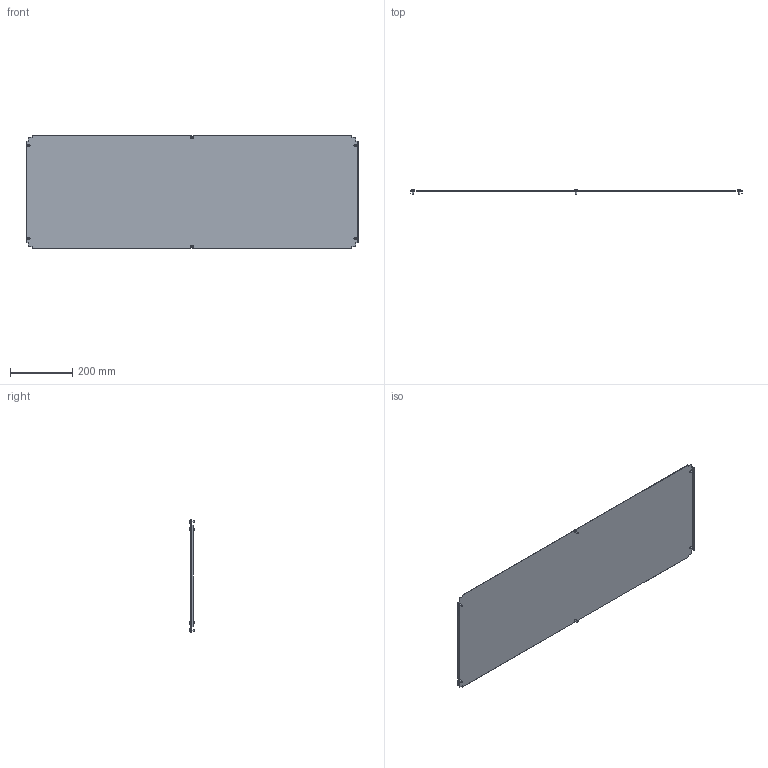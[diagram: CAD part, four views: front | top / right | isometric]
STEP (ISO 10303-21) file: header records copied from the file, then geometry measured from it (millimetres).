
FILE_DESCRIPTION (( 'STEP AP203' ), '1' );
FILE_NAME ('R5N1BP125.STEP', '2025-02-21T13:58:30', ( '' ), ( '' ), 'SwSTEP 2.0', 'SolidWorks 2022', '' );
FILE_SCHEMA (( 'CONFIG_CONTROL_DESIGN' ));
Length unit declared in the file: millimetre
Products named in the file (3): RB.1923.00.00.0_-26; R5N1BP125; M5x12 DIN 7500 C Torx Zinc_stright
Assembly tree (7 placements, depth 2):
  R5N1BP125
    RB.1923.00.00.0_-26
    M5x12 DIN 7500 C Torx Zinc_stright  x6
Bounding box: 1068 x 15.56 x 362 mm (x, y, z)
Volume: 588286 mm3; surface area: 788069.4 mm2
Topology: 7 solids, 7 shells, 166 faces, 384 edges, 238 vertices
Faces by surface type: plane 106, cylinder 24, torus 12, cone 12, sphere 6, bspline 6
Full cylindrical faces by diameter (mm): 5 x6, 9.5 x6
Entity records: 3297 total; most frequent: CARTESIAN_POINT 674, ORIENTED_EDGE 448, DIRECTION 444, EDGE_CURVE 224, VECTOR 180, LINE 180, VERTEX_POINT 150, AXIS2_PLACEMENT_3D 132
